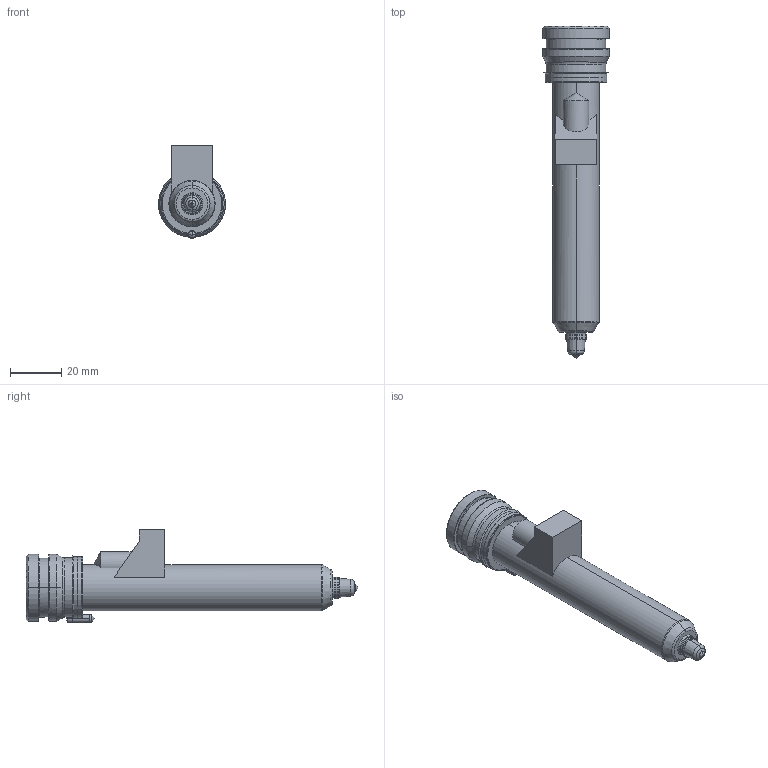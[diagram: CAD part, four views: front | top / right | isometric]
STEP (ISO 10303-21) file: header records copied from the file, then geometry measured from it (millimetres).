
FILE_DESCRIPTION((''),'2;1');
FILE_NAME('TH18111-M-1B50-PK-JG','2023-12-14T',('umhib'),('Thermoplay S.p.A.'),'PRO/ENGINEER BY PARAMETRIC TECHNOLOGY CORPORATION, 2017170','PRO/ENGINEER BY PARAMETRIC TECHNOLOGY CORPORATION, 2017170','');
FILE_SCHEMA(('CONFIG_CONTROL_DESIGN'));
Length unit declared in the file: millimetre
Products named in the file (1): TH18111-M-1B50-PK-JG
Bounding box: 26 x 129 x 36.1 mm (x, y, z)
Volume: 26134.5 mm3; surface area: 20099.5 mm2
Topology: 1 solids, 2 shells, 389 faces, 993 edges, 609 vertices
Faces by surface type: cylinder 149, plane 87, cone 62, torus 56, bspline 22, sphere 11, extrusion 2
Entity records: 16885 total; most frequent: CARTESIAN_POINT 5242, DIRECTION 1992, ORIENTED_EDGE 1960, EDGE_CURVE 982, AXIS2_PLACEMENT_3D 802, VERTEX_POINT 609, CIRCLE 436, EDGE_LOOP 412
